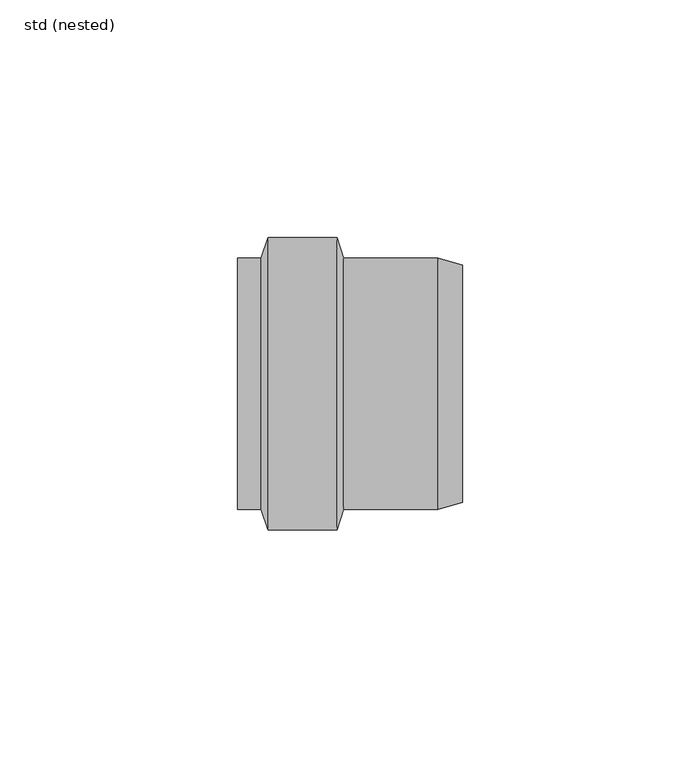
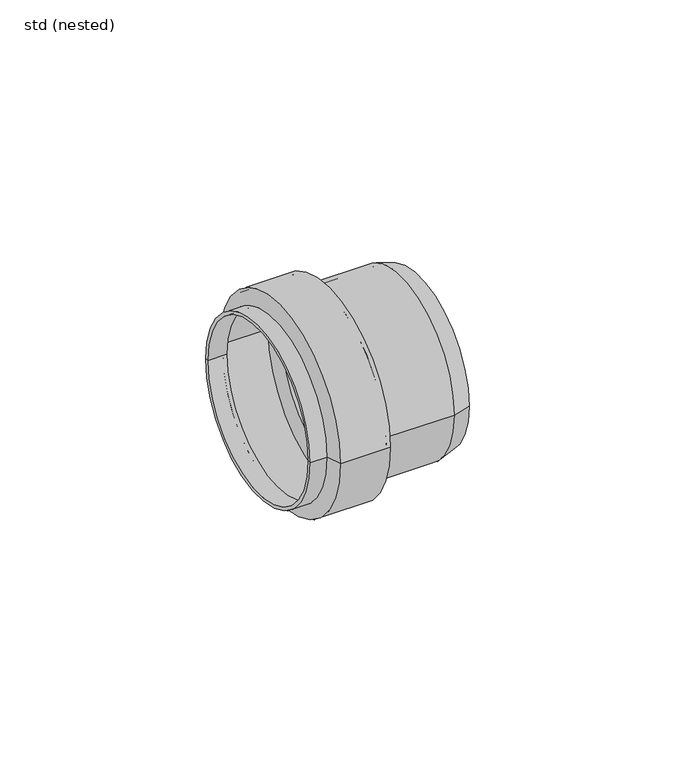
"""IFC4 building model written with IfcOpenShell, lengths in millimetres: pipe fitting geometry, ZZZ_do not use_PIF_ST_UN_ACO pipe socket_ACO : std (nested)."""

from ifc_helpers import new_model, si_unit, frame, origin, place, context, project, spatial, polyline, circle_curve, source, transform, mapped, element, save
from ifc_brep_helpers import plane_surface, cylinder_surface, revolved_surface, advanced_brep


def std_nested_7f6e179d(model_context):
    return source(origin(), model_context, "Body", "AdvancedBrep", [
        advanced_brep(
        [(-34.8, -30.0, 0.0), (-34.8, 30.0, 0.0), (-36.4, 25.5, 0.0), (-36.4, -25.5, 0.0), (-21.9, -30.0, 0.0), (-21.9, 30.0, 0.0), (-20.4, -25.5, 0.0), (-20.4, 25.5, 0.0), (0.0, -25.5, 0.0), (0.0, 25.5, 0.0), (5.0, -24.0, 0.0), (5.0, 24.0, 0.0), (5.2873479, -24.9578263, 0.0), (5.2873479, 24.9578263, 0.0), (0.1467688, -26.5, 0.0), (0.1467688, 26.5, 0.0), (-19.6792408, -26.5, 0.0), (-19.6792408, 26.5, 0.0), (-21.0983899, -30.7574473, 0.0), (-21.0983899, 30.7574473, 0.0), (-35.5920147, -30.7574473, 0.0), (-35.5920147, 30.7574473, 0.0), (-37.1057737, -26.5, 0.0), (-37.1057737, 26.5, 0.0), (-42.0, -26.5, 0.0), (-42.0, 26.5, 0.0), (-42.0, -25.5, 0.0), (-42.0, 25.5, 0.0)],
        [
            (0, 1, circle_curve(frame((-34.8, 0.0, 0.0), z_axis=(1.0, 0.0, 0.0), x_axis=(0.0, 1.0, 0.0)), 30.0)),
            (1, 2),
            (2, 3, circle_curve(frame((-36.4, 0.0, 0.0), z_axis=(-1.0, 0.0, 0.0), x_axis=(0.0, 1.0, 0.0)), 25.5)),
            (3, 0),
            (1, 0, circle_curve(frame((-34.8, 0.0, 0.0), z_axis=(1.0, 0.0, 0.0), x_axis=(0.0, 1.0, 0.0)), 30.0)),
            (3, 2, circle_curve(frame((-36.4, 0.0, 0.0), z_axis=(-1.0, 0.0, 0.0), x_axis=(0.0, 1.0, 0.0)), 25.5)),
            (4, 5, circle_curve(frame((-21.9, 0.0, 0.0), z_axis=(1.0, 0.0, 0.0), x_axis=(0.0, 1.0, 0.0)), 30.0)),
            (5, 1),
            (0, 4),
            (5, 4, circle_curve(frame((-21.9, 0.0, 0.0), z_axis=(1.0, 0.0, 0.0), x_axis=(0.0, 1.0, 0.0)), 30.0)),
            (6, 7, circle_curve(frame((-20.4, 0.0, 0.0), z_axis=(1.0, 0.0, 0.0), x_axis=(0.0, 1.0, 0.0)), 25.5)),
            (7, 5),
            (4, 6),
            (7, 6, circle_curve(frame((-20.4, 0.0, 0.0), z_axis=(1.0, 0.0, 0.0), x_axis=(0.0, 1.0, 0.0)), 25.5)),
            (8, 9, circle_curve(frame((0.0, 0.0, 0.0), z_axis=(1.0, 0.0, 0.0), x_axis=(0.0, 1.0, 0.0)), 25.5)),
            (9, 7),
            (6, 8),
            (9, 8, circle_curve(frame((0.0, 0.0, 0.0), z_axis=(1.0, 0.0, 0.0), x_axis=(0.0, 1.0, 0.0)), 25.5)),
            (10, 11, circle_curve(frame((5.0, 0.0, 0.0), z_axis=(1.0, 0.0, 0.0), x_axis=(0.0, 1.0, 0.0)), 24.0)),
            (11, 9),
            (8, 10),
            (11, 10, circle_curve(frame((5.0, 0.0, 0.0), z_axis=(1.0, 0.0, 0.0), x_axis=(0.0, 1.0, 0.0)), 24.0)),
            (12, 13, circle_curve(frame((5.2873479, 0.0, 0.0), z_axis=(1.0, 0.0, 0.0), x_axis=(0.0, 1.0, 0.0)), 24.9578263)),
            (13, 11),
            (10, 12),
            (13, 12, circle_curve(frame((5.2873479, 0.0, 0.0), z_axis=(1.0, 0.0, 0.0), x_axis=(0.0, 1.0, 0.0)), 24.9578263)),
            (14, 15, circle_curve(frame((0.1467688, 0.0, 0.0), z_axis=(1.0, 0.0, 0.0), x_axis=(0.0, 1.0, 0.0)), 26.5)),
            (15, 13),
            (12, 14),
            (15, 14, circle_curve(frame((0.1467688, 0.0, 0.0), z_axis=(1.0, 0.0, 0.0), x_axis=(0.0, 1.0, 0.0)), 26.5)),
            (16, 17, circle_curve(frame((-19.6792408, 0.0, 0.0), z_axis=(1.0, 0.0, 0.0), x_axis=(0.0, 1.0, 0.0)), 26.5)),
            (17, 15),
            (14, 16),
            (17, 16, circle_curve(frame((-19.6792408, 0.0, 0.0), z_axis=(1.0, 0.0, 0.0), x_axis=(0.0, 1.0, 0.0)), 26.5)),
            (18, 19, circle_curve(frame((-21.0983899, 0.0, 0.0), z_axis=(1.0, 0.0, 0.0), x_axis=(0.0, 1.0, 0.0)), 30.7574473)),
            (19, 17),
            (16, 18),
            (19, 18, circle_curve(frame((-21.0983899, 0.0, 0.0), z_axis=(1.0, 0.0, 0.0), x_axis=(0.0, 1.0, 0.0)), 30.7574473)),
            (20, 21, circle_curve(frame((-35.5920147, 0.0, 0.0), z_axis=(1.0, 0.0, 0.0), x_axis=(0.0, 1.0, 0.0)), 30.7574473)),
            (21, 19),
            (18, 20),
            (21, 20, circle_curve(frame((-35.5920147, 0.0, 0.0), z_axis=(1.0, 0.0, 0.0), x_axis=(0.0, 1.0, 0.0)), 30.7574473)),
            (22, 23, circle_curve(frame((-37.1057737, 0.0, 0.0), z_axis=(1.0, 0.0, 0.0), x_axis=(0.0, 1.0, 0.0)), 26.5)),
            (23, 21),
            (20, 22),
            (23, 22, circle_curve(frame((-37.1057737, 0.0, 0.0), z_axis=(1.0, 0.0, 0.0), x_axis=(0.0, 1.0, 0.0)), 26.5)),
            (24, 25, circle_curve(frame((-42.0, 0.0, 0.0), z_axis=(1.0, 0.0, 0.0), x_axis=(0.0, 1.0, 0.0)), 26.5)),
            (25, 23),
            (22, 24),
            (25, 24, circle_curve(frame((-42.0, 0.0, 0.0), z_axis=(1.0, 0.0, 0.0), x_axis=(0.0, 1.0, 0.0)), 26.5)),
            (26, 27, circle_curve(frame((-42.0, 0.0, 0.0), z_axis=(1.0, 0.0, 0.0), x_axis=(0.0, 1.0, 0.0)), 25.5)),
            (27, 25),
            (24, 26),
            (27, 26, circle_curve(frame((-42.0, 0.0, 0.0), z_axis=(1.0, 0.0, 0.0), x_axis=(0.0, 1.0, 0.0)), 25.5)),
            (2, 27),
            (26, 3),
        ],
        [
            revolved_surface(polyline([(-36.4, 25.5, 0.0), (-34.8, 30.0, 0.0)]), (-39.2050583, 0.0, 0.0), (-1.0, 0.0, 0.0)),
            revolved_surface(polyline([(-34.8, 30.0, 0.0), (-21.9, 30.0, 0.0)]), (-39.2050583, 0.0, 0.0), (-1.0, 0.0, 0.0)),
            revolved_surface(polyline([(-21.9, 30.0, 0.0), (-20.4, 25.5, 0.0)]), (-39.2050583, 0.0, 0.0), (-1.0, 0.0, 0.0)),
            revolved_surface(polyline([(-20.4, 25.5, 0.0), (0.0, 25.5, 0.0)]), (-39.2050583, 0.0, 0.0), (-1.0, 0.0, 0.0)),
            revolved_surface(polyline([(0.0, 25.5, 0.0), (5.0, 24.0, 0.0)]), (-39.2050583, 0.0, 0.0), (-1.0, 0.0, 0.0)),
            revolved_surface(polyline([(5.0, 24.0, 0.0), (5.2873479, 24.9578263, 0.0)]), (-39.2050583, 0.0, 0.0), (-1.0, 0.0, 0.0)),
            revolved_surface(polyline([(5.2873479, 24.9578263, 0.0), (0.1467688, 26.5, 0.0)]), (-39.2050583, 0.0, 0.0), (-1.0, 0.0, 0.0)),
            cylinder_surface(frame((-39.2050583, 0.0, 0.0), z_axis=(-1.0, 0.0, 0.0), x_axis=(0.0, 1.0, 0.0)), 26.5),
            revolved_surface(polyline([(-19.6792408, 26.5, 0.0), (-21.0983899, 30.7574473, 0.0)]), (-39.2050583, 0.0, 0.0), (-1.0, 0.0, 0.0)),
            cylinder_surface(frame((-39.2050583, 0.0, 0.0), z_axis=(-1.0, 0.0, 0.0), x_axis=(0.0, 1.0, 0.0)), 30.7574473),
            revolved_surface(polyline([(-35.5920147, 30.7574473, 0.0), (-37.1057737, 26.5, 0.0)]), (-39.2050583, 0.0, 0.0), (-1.0, 0.0, 0.0)),
            plane_surface(frame((-42.0, 0.0, 0.0), z_axis=(-1.0, 0.0, 0.0), x_axis=(0.0, 1.0, 0.0))),
            revolved_surface(polyline([(-42.0, 25.5, 0.0), (-36.4, 25.5, 0.0)]), (-39.2050583, 0.0, 0.0), (-1.0, 0.0, 0.0)),
        ],
        [
            (0, [[1, 2, 3, 4]]),
            (0, [[5, -4, 6, -2]]),
            (1, [[7, 8, -1, 9]]),
            (1, [[10, -9, -5, -8]]),
            (2, [[11, 12, -7, 13]]),
            (2, [[14, -13, -10, -12]]),
            (3, [[15, 16, -11, 17]]),
            (3, [[18, -17, -14, -16]]),
            (4, [[19, 20, -15, 21]]),
            (4, [[22, -21, -18, -20]]),
            (5, [[23, 24, -19, 25]]),
            (5, [[26, -25, -22, -24]]),
            (6, [[27, 28, -23, 29]]),
            (6, [[30, -29, -26, -28]]),
            (7, [[31, 32, -27, 33]]),
            (7, [[34, -33, -30, -32]]),
            (8, [[35, 36, -31, 37]]),
            (8, [[38, -37, -34, -36]]),
            (9, [[39, 40, -35, 41]]),
            (9, [[42, -41, -38, -40]]),
            (10, [[43, 44, -39, 45]]),
            (10, [[46, -45, -42, -44]]),
            (7, [[47, 48, -43, 49]]),
            (7, [[50, -49, -46, -48]]),
            (11, [[51, 52, -47, 53]]),
            (11, [[54, -53, -50, -52]]),
            (12, [[-3, 55, -51, 56]]),
            (12, [[-6, -56, -54, -55]]),
        ],
    ),
    ])


if __name__ == "__main__":
    model = new_model("IFC4")
    model_context = context("Model", 3, world=origin())
    ifc_project = project(units=[si_unit("LENGTHUNIT", "METRE", prefix="MILLI")], contexts=[model_context])
    site = spatial("IfcSite", under=ifc_project)
    building = spatial("IfcBuilding", under=site)
    placement = place(None, origin())
    std_nested_shape = std_nested_7f6e179d(model_context)
    element("IfcPipeFitting", 1, ObjectType="ZZZ_do not use_PIF_ST_UN_ACO pipe socket_ACO : std (nested)", at=placement, inside=building, context=model_context, shape_type="MappedRepresentation", body=[
        mapped(std_nested_shape, transform((0.0, 0.0, 0.0), x_axis=(1.0, 0.0, 0.0), y_axis=(0.0, 1.0, 0.0), z_axis=(0.0, 0.0, 1.0))),
    ])
    save(model, "model.ifc")
